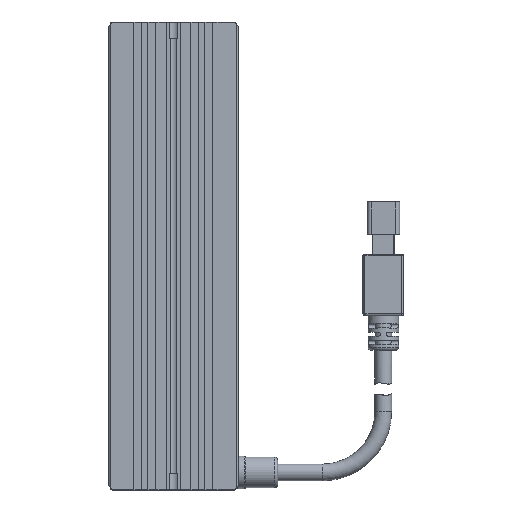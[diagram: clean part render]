
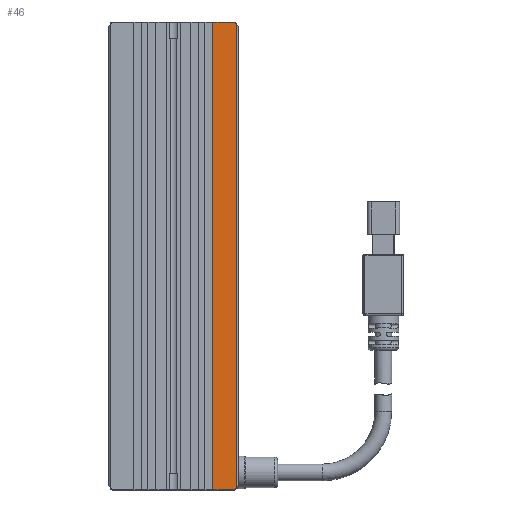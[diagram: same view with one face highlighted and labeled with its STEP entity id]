
A CAD part, top view. The second image highlights one B-rep face of the part: STEP entity #46.
In plain terms, the highlighted planar face has unit normal (0, 0, 1).
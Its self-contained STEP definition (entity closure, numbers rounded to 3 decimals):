
#46 = ADVANCED_FACE ( 'NONE', ( #23338 ), #11029, .F. ) ;
#963 = ORIENTED_EDGE ( 'NONE', *, *, #26359, .F. ) ;
#1297 = DIRECTION ( 'NONE',  ( 1., 0., 0. ) ) ;
#1757 = VERTEX_POINT ( 'NONE', #24010 ) ;
#2425 = ORIENTED_EDGE ( 'NONE', *, *, #5119, .F. ) ;
#2510 = DIRECTION ( 'NONE',  ( -1., 0., 0. ) ) ;
#2710 = DIRECTION ( 'NONE',  ( 0., 0., -1. ) ) ;
#4082 = VECTOR ( 'NONE', #10507, 1000. ) ;
#4252 = EDGE_LOOP ( 'NONE', ( #2425, #22271, #963, #21852, #15236, #14914 ) ) ;
#5119 = EDGE_CURVE ( 'NONE', #1757, #10386, #19931, .T. ) ;
#5507 = EDGE_CURVE ( 'NONE', #5720, #27748, #25423, .T. ) ;
#5720 = VERTEX_POINT ( 'NONE', #24935 ) ;
#5982 = VECTOR ( 'NONE', #17381, 1000. ) ;
#6772 = CARTESIAN_POINT ( 'NONE',  ( 15.5, 57.5, 12.5 ) ) ;
#7105 = VERTEX_POINT ( 'NONE', #16260 ) ;
#8427 = CARTESIAN_POINT ( 'NONE',  ( 15.5, -57., 12.5 ) ) ;
#9509 = VECTOR ( 'NONE', #1297, 1000. ) ;
#9595 = LINE ( 'NONE', #17070, #4082 ) ;
#9909 = EDGE_CURVE ( 'NONE', #1757, #20159, #16999, .T. ) ;
#9911 = DIRECTION ( 'NONE',  ( 1., 0., 0. ) ) ;
#10386 = VERTEX_POINT ( 'NONE', #8427 ) ;
#10507 = DIRECTION ( 'NONE',  ( 0.707, 0.707, 0. ) ) ;
#11029 = PLANE ( 'NONE',  #22828 ) ;
#14914 = ORIENTED_EDGE ( 'NONE', *, *, #27921, .T. ) ;
#15236 = ORIENTED_EDGE ( 'NONE', *, *, #18124, .T. ) ;
#15368 = LINE ( 'NONE', #16516, #9509 ) ;
#16260 = CARTESIAN_POINT ( 'NONE',  ( 15., -57.5, 12.5 ) ) ;
#16516 = CARTESIAN_POINT ( 'NONE',  ( 15.5, 57.5, 12.5 ) ) ;
#16999 = LINE ( 'NONE', #17571, #5982 ) ;
#17070 = CARTESIAN_POINT ( 'NONE',  ( 16., -56.5, 12.5 ) ) ;
#17381 = DIRECTION ( 'NONE',  ( -0.707, 0.707, 0. ) ) ;
#17499 = VECTOR ( 'NONE', #24104, 1000. ) ;
#17571 = CARTESIAN_POINT ( 'NONE',  ( 15., 57.5, 12.5 ) ) ;
#17883 = CARTESIAN_POINT ( 'NONE',  ( 15.5, 57.5, 12.5 ) ) ;
#18124 = EDGE_CURVE ( 'NONE', #27748, #7105, #19050, .T. ) ;
#18153 = VECTOR ( 'NONE', #26676, 1000. ) ;
#19050 = LINE ( 'NONE', #22910, #21123 ) ;
#19931 = LINE ( 'NONE', #6772, #17499 ) ;
#20159 = VERTEX_POINT ( 'NONE', #28453 ) ;
#21123 = VECTOR ( 'NONE', #9911, 1000. ) ;
#21852 = ORIENTED_EDGE ( 'NONE', *, *, #5507, .T. ) ;
#22271 = ORIENTED_EDGE ( 'NONE', *, *, #9909, .T. ) ;
#22828 = AXIS2_PLACEMENT_3D ( 'NONE', #17883, #2710, #2510 ) ;
#22910 = CARTESIAN_POINT ( 'NONE',  ( 15.5, -57.5, 12.5 ) ) ;
#23067 = CARTESIAN_POINT ( 'NONE',  ( 9.7, -57.5, 12.5 ) ) ;
#23338 = FACE_OUTER_BOUND ( 'NONE', #4252, .T. ) ;
#24010 = CARTESIAN_POINT ( 'NONE',  ( 15.5, 57., 12.5 ) ) ;
#24104 = DIRECTION ( 'NONE',  ( 0., -1., 0. ) ) ;
#24935 = CARTESIAN_POINT ( 'NONE',  ( 9.7, 57.5, 12.5 ) ) ;
#25423 = LINE ( 'NONE', #28316, #18153 ) ;
#26359 = EDGE_CURVE ( 'NONE', #5720, #20159, #15368, .T. ) ;
#26676 = DIRECTION ( 'NONE',  ( 0., -1., 0. ) ) ;
#27748 = VERTEX_POINT ( 'NONE', #23067 ) ;
#27921 = EDGE_CURVE ( 'NONE', #7105, #10386, #9595, .T. ) ;
#28316 = CARTESIAN_POINT ( 'NONE',  ( 9.7, 57.5, 12.5 ) ) ;
#28453 = CARTESIAN_POINT ( 'NONE',  ( 15., 57.5, 12.5 ) ) ;
